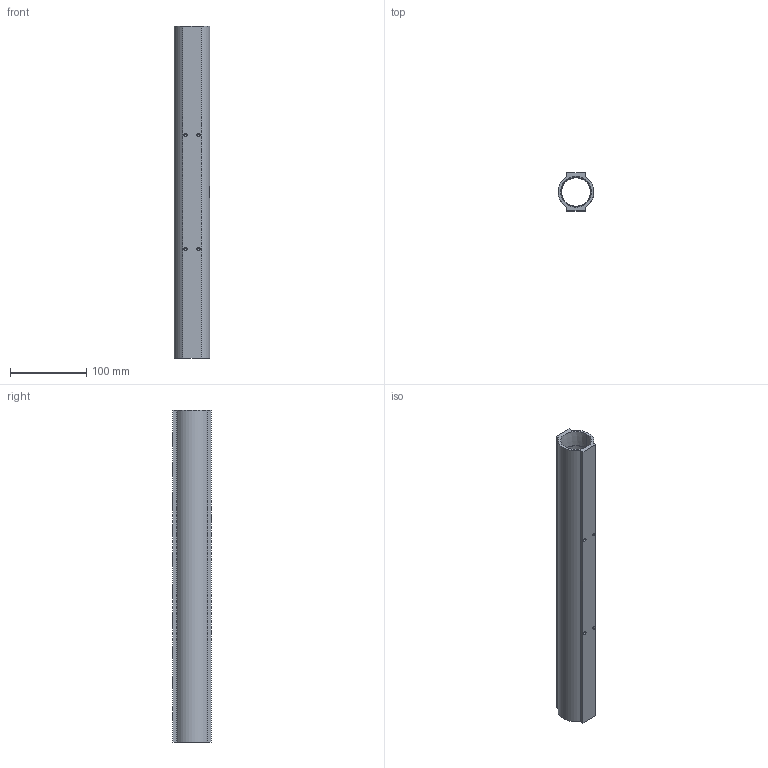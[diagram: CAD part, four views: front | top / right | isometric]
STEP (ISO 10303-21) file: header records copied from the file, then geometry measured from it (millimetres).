
FILE_DESCRIPTION (( 'STEP AP214' ), '1' );
FILE_NAME ('BWM10620B.STEP', '2022-03-15T05:36:51', ( '' ), ( '' ), 'SwSTEP 2.0', 'SolidWorks 2020', '' );
FILE_SCHEMA (( 'AUTOMOTIVE_DESIGN' ));
Length unit declared in the file: millimetre
Products named in the file (1): BWM10620B
Bounding box: 47 x 50 x 436 mm (x, y, z)
Volume: 297222 mm3; surface area: 125062.4 mm2
Topology: 1 solids, 1 shells, 230 faces, 616 edges, 404 vertices
Faces by surface type: plane 96, bspline 59, cylinder 43, cone 32
Entity records: 13365 total; most frequent: CARTESIAN_POINT 6074, ORIENTED_EDGE 1216, DIRECTION 788, EDGE_CURVE 608, VERTEX_POINT 404, LINE 296, VECTOR 296, EDGE_LOOP 276
